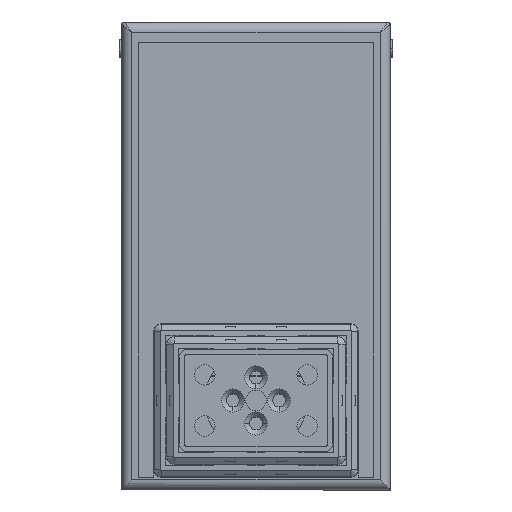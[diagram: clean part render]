
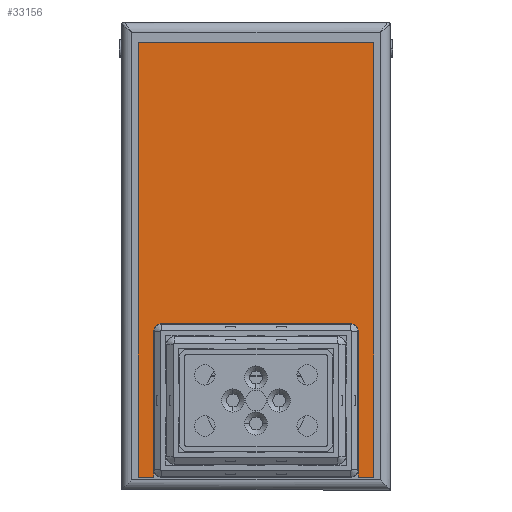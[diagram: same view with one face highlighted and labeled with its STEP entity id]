
A CAD part, front view. The second image highlights one B-rep face of the part: STEP entity #33156.
In plain terms, the highlighted planar face has unit normal (0, -1, 0).
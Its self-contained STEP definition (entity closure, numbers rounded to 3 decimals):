
#195 = EDGE_CURVE ( 'NONE', #28897, #33525, #63557, .T. ) ;
#3610 = CARTESIAN_POINT ( 'NONE',  ( -40., 540.5, 27. ) ) ;
#4291 = VERTEX_POINT ( 'NONE', #82683 ) ;
#4868 = EDGE_CURVE ( 'NONE', #62197, #45402, #87756, .T. ) ;
#9170 = CARTESIAN_POINT ( 'NONE',  ( -37., 540.5, 27. ) ) ;
#10608 = EDGE_CURVE ( 'NONE', #80188, #62197, #68706, .T. ) ;
#12060 = VECTOR ( 'NONE', #76769, 1000. ) ;
#12116 = CARTESIAN_POINT ( 'NONE',  ( -46., 540.5, 140. ) ) ;
#12467 = VECTOR ( 'NONE', #88431, 1000. ) ;
#13142 = ORIENTED_EDGE ( 'NONE', *, *, #74683, .T. ) ;
#14410 = CARTESIAN_POINT ( 'NONE',  ( -40., 540.5, -30. ) ) ;
#14552 = VECTOR ( 'NONE', #55587, 1000. ) ;
#14786 = CARTESIAN_POINT ( 'NONE',  ( 40., 540.5, -30. ) ) ;
#15083 = DIRECTION ( 'NONE',  ( 1., 0., 0. ) ) ;
#18272 = CARTESIAN_POINT ( 'NONE',  ( -40., 540.5, -30. ) ) ;
#18356 = CARTESIAN_POINT ( 'NONE',  ( 46., 540.5, 140. ) ) ;
#19288 = CARTESIAN_POINT ( 'NONE',  ( -37., 540.5, 30. ) ) ;
#19485 = DIRECTION ( 'NONE',  ( 1., 0., 0. ) ) ;
#21216 = EDGE_CURVE ( 'NONE', #89408, #43767, #70393, .T. ) ;
#21296 = EDGE_CURVE ( 'NONE', #89408, #58584, #21329, .T. ) ;
#21329 = CIRCLE ( 'NONE', #88946, 3. ) ;
#22012 = CIRCLE ( 'NONE', #73506, 3. ) ;
#23068 = VECTOR ( 'NONE', #64199, 1000. ) ;
#23429 = VECTOR ( 'NONE', #41483, 1000. ) ;
#24300 = CARTESIAN_POINT ( 'NONE',  ( 40., 540.5, 30. ) ) ;
#24546 = ORIENTED_EDGE ( 'NONE', *, *, #195, .T. ) ;
#25690 = LINE ( 'NONE', #56186, #14552 ) ;
#25779 = DIRECTION ( 'NONE',  ( 0., -1., 0. ) ) ;
#26525 = CARTESIAN_POINT ( 'NONE',  ( 46., 540.5, -30. ) ) ;
#26935 = CARTESIAN_POINT ( 'NONE',  ( -40., 540.5, -30. ) ) ;
#28897 = VERTEX_POINT ( 'NONE', #52612 ) ;
#31615 = VECTOR ( 'NONE', #64577, 1000. ) ;
#33156 = ADVANCED_FACE ( 'NONE', ( #82014 ), #79515, .T. ) ;
#33525 = VERTEX_POINT ( 'NONE', #18356 ) ;
#33849 = LINE ( 'NONE', #14786, #31615 ) ;
#36655 = VECTOR ( 'NONE', #61289, 1000. ) ;
#37043 = CARTESIAN_POINT ( 'NONE',  ( 40., 540.5, 27. ) ) ;
#37726 = CARTESIAN_POINT ( 'NONE',  ( 40., 540.5, -30. ) ) ;
#38870 = EDGE_LOOP ( 'NONE', ( #24546, #13142, #72226, #85110, #39414, #72394, #74889, #39755, #40143, #73865, #48820, #48897 ) ) ;
#39414 = ORIENTED_EDGE ( 'NONE', *, *, #4868, .T. ) ;
#39755 = ORIENTED_EDGE ( 'NONE', *, *, #21216, .T. ) ;
#40143 = ORIENTED_EDGE ( 'NONE', *, *, #82724, .F. ) ;
#41483 = DIRECTION ( 'NONE',  ( 0., 0., 1. ) ) ;
#42703 = DIRECTION ( 'NONE',  ( 0., 0., -1. ) ) ;
#43767 = VERTEX_POINT ( 'NONE', #50559 ) ;
#44142 = VERTEX_POINT ( 'NONE', #83177 ) ;
#44900 = CARTESIAN_POINT ( 'NONE',  ( -37., 540.5, 27. ) ) ;
#45402 = VERTEX_POINT ( 'NONE', #56358 ) ;
#48820 = ORIENTED_EDGE ( 'NONE', *, *, #72185, .T. ) ;
#48897 = ORIENTED_EDGE ( 'NONE', *, *, #87456, .T. ) ;
#49080 = CARTESIAN_POINT ( 'NONE',  ( 46., 540.5, -30. ) ) ;
#49790 = VECTOR ( 'NONE', #75867, 1000. ) ;
#49841 = LINE ( 'NONE', #14410, #23068 ) ;
#50559 = CARTESIAN_POINT ( 'NONE',  ( 37., 540.5, 30. ) ) ;
#52612 = CARTESIAN_POINT ( 'NONE',  ( 46., 540.5, -30. ) ) ;
#55587 = DIRECTION ( 'NONE',  ( 0., 0., -1. ) ) ;
#56186 = CARTESIAN_POINT ( 'NONE',  ( -46., 540.5, -30. ) ) ;
#56358 = CARTESIAN_POINT ( 'NONE',  ( -40., 540.5, -27. ) ) ;
#58584 = VERTEX_POINT ( 'NONE', #3610 ) ;
#59216 = DIRECTION ( 'NONE',  ( 0., -1., 0. ) ) ;
#61289 = DIRECTION ( 'NONE',  ( -1., 0., 0. ) ) ;
#62197 = VERTEX_POINT ( 'NONE', #62410 ) ;
#62410 = CARTESIAN_POINT ( 'NONE',  ( -40., 540.5, -30. ) ) ;
#63557 = LINE ( 'NONE', #26525, #23429 ) ;
#64199 = DIRECTION ( 'NONE',  ( 0., 0., 1. ) ) ;
#64279 = VERTEX_POINT ( 'NONE', #37043 ) ;
#64577 = DIRECTION ( 'NONE',  ( 0., 0., -1. ) ) ;
#66178 = VECTOR ( 'NONE', #19485, 1000. ) ;
#66344 = EDGE_CURVE ( 'NONE', #45402, #58584, #49841, .T. ) ;
#66364 = DIRECTION ( 'NONE',  ( 0., 0., 1. ) ) ;
#67349 = LINE ( 'NONE', #49080, #66178 ) ;
#67808 = VERTEX_POINT ( 'NONE', #37726 ) ;
#67858 = CARTESIAN_POINT ( 'NONE',  ( 37., 540.5, 27. ) ) ;
#68273 = VECTOR ( 'NONE', #42703, 1000. ) ;
#68706 = LINE ( 'NONE', #18272, #49790 ) ;
#70008 = AXIS2_PLACEMENT_3D ( 'NONE', #9170, #72980, #15083 ) ;
#70393 = LINE ( 'NONE', #24300, #12467 ) ;
#71031 = CARTESIAN_POINT ( 'NONE',  ( 40., 540.5, 27. ) ) ;
#72185 = EDGE_CURVE ( 'NONE', #4291, #67808, #89409, .T. ) ;
#72226 = ORIENTED_EDGE ( 'NONE', *, *, #80647, .T. ) ;
#72290 = LINE ( 'NONE', #12116, #36655 ) ;
#72394 = ORIENTED_EDGE ( 'NONE', *, *, #66344, .T. ) ;
#72980 = DIRECTION ( 'NONE',  ( 0., -1., 0. ) ) ;
#73506 = AXIS2_PLACEMENT_3D ( 'NONE', #67858, #25779, #75333 ) ;
#73865 = ORIENTED_EDGE ( 'NONE', *, *, #87604, .T. ) ;
#74683 = EDGE_CURVE ( 'NONE', #33525, #44142, #72290, .T. ) ;
#74889 = ORIENTED_EDGE ( 'NONE', *, *, #21296, .F. ) ;
#75333 = DIRECTION ( 'NONE',  ( 0., 0., 1. ) ) ;
#75867 = DIRECTION ( 'NONE',  ( 1., 0., 0. ) ) ;
#76769 = DIRECTION ( 'NONE',  ( 0., 0., 1. ) ) ;
#79515 = PLANE ( 'NONE',  #70008 ) ;
#80188 = VERTEX_POINT ( 'NONE', #82246 ) ;
#80647 = EDGE_CURVE ( 'NONE', #44142, #80188, #25690, .T. ) ;
#82014 = FACE_OUTER_BOUND ( 'NONE', #38870, .T. ) ;
#82246 = CARTESIAN_POINT ( 'NONE',  ( -46., 540.5, -30. ) ) ;
#82683 = CARTESIAN_POINT ( 'NONE',  ( 40., 540.5, -27. ) ) ;
#82724 = EDGE_CURVE ( 'NONE', #64279, #43767, #22012, .T. ) ;
#83177 = CARTESIAN_POINT ( 'NONE',  ( -46., 540.5, 140. ) ) ;
#85110 = ORIENTED_EDGE ( 'NONE', *, *, #10608, .T. ) ;
#87456 = EDGE_CURVE ( 'NONE', #67808, #28897, #67349, .T. ) ;
#87604 = EDGE_CURVE ( 'NONE', #64279, #4291, #33849, .T. ) ;
#87756 = LINE ( 'NONE', #26935, #12060 ) ;
#88431 = DIRECTION ( 'NONE',  ( 1., 0., 0. ) ) ;
#88946 = AXIS2_PLACEMENT_3D ( 'NONE', #44900, #59216, #66364 ) ;
#89408 = VERTEX_POINT ( 'NONE', #19288 ) ;
#89409 = LINE ( 'NONE', #71031, #68273 ) ;
